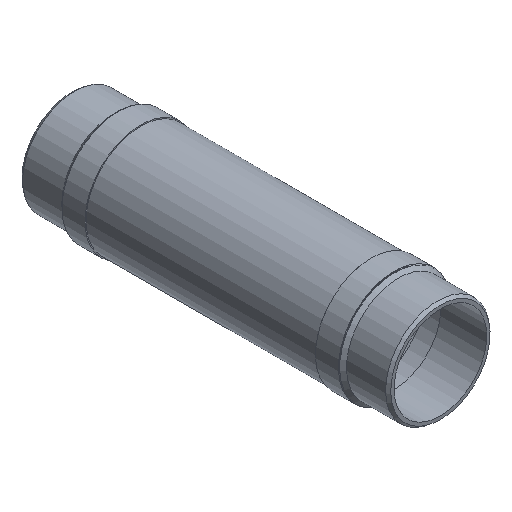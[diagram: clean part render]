
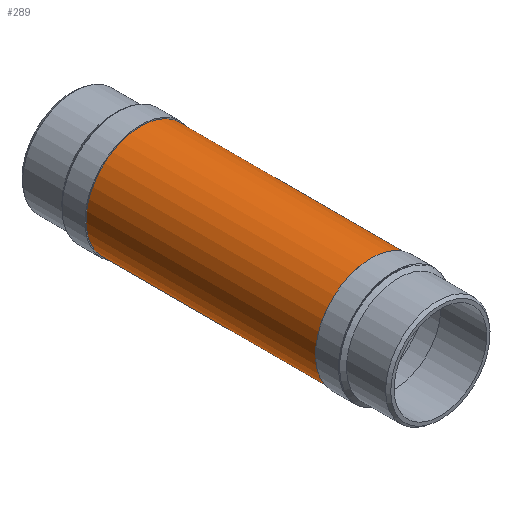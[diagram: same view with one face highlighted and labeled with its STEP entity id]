
A CAD part, isometric view. The second image highlights one B-rep face of the part: STEP entity #289.
In plain terms, the highlighted cylindrical face has radius 60.35 mm (diameter 120.701 mm), a full revolution.
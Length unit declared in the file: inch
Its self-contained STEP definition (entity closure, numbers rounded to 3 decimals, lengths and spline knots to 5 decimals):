
#34=FACE_BOUND('',#85,.T.);
#58=FACE_OUTER_BOUND('',#84,.T.);
#84=EDGE_LOOP('',(#204));
#85=EDGE_LOOP('',(#205));
#130=CIRCLE('',#321,2.376);
#131=CIRCLE('',#323,2.376);
#154=VERTEX_POINT('',#470);
#155=VERTEX_POINT('',#473);
#178=EDGE_CURVE('',#154,#154,#130,.T.);
#179=EDGE_CURVE('',#155,#155,#131,.T.);
#204=ORIENTED_EDGE('',*,*,#178,.T.);
#205=ORIENTED_EDGE('',*,*,#179,.T.);
#249=CYLINDRICAL_SURFACE('',#322,2.376);
#289=ADVANCED_FACE('',(#58,#34),#249,.T.);
#321=AXIS2_PLACEMENT_3D('',#471,#375,#376);
#322=AXIS2_PLACEMENT_3D('',#472,#377,#378);
#323=AXIS2_PLACEMENT_3D('',#474,#379,#380);
#375=DIRECTION('center_axis',(0.,1.,0.));
#376=DIRECTION('ref_axis',(-0.522,0.,0.853));
#377=DIRECTION('center_axis',(0.,1.,0.));
#378=DIRECTION('ref_axis',(-0.522,0.,0.853));
#379=DIRECTION('center_axis',(0.,-1.,0.));
#380=DIRECTION('ref_axis',(-0.522,0.,0.853));
#470=CARTESIAN_POINT('',(1.24009,2.,-2.02671));
#471=CARTESIAN_POINT('Origin',(0.,2.,0.));
#472=CARTESIAN_POINT('Origin',(0.,8.,0.));
#473=CARTESIAN_POINT('',(1.24009,14.,-2.02671));
#474=CARTESIAN_POINT('Origin',(0.,14.,0.));
